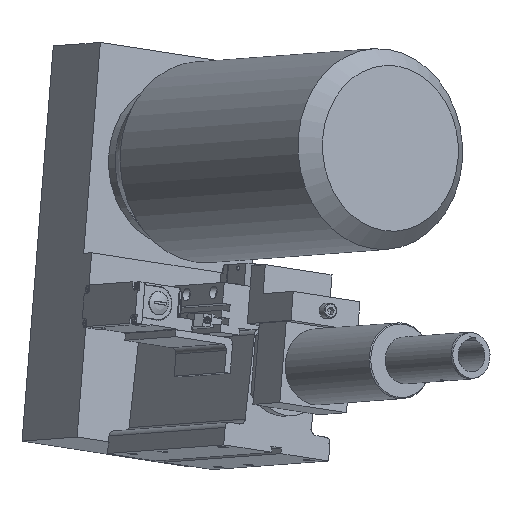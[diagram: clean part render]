
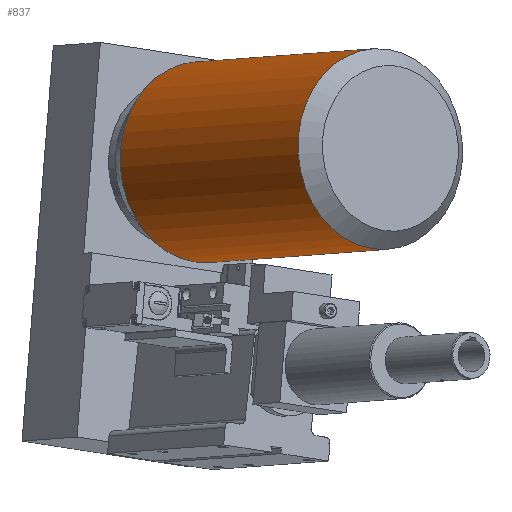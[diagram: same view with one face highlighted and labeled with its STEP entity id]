
A CAD part, front view. The second image highlights one B-rep face of the part: STEP entity #837.
In plain terms, the highlighted cylindrical face has radius 86 mm (diameter 172 mm), a full revolution.
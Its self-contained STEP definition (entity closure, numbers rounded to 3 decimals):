
#810=CARTESIAN_POINT('',(62.961,-47.484,297.076));
#811=DIRECTION('',(-0.574,0.818,-0.042));
#812=DIRECTION('',(-0.815,-0.566,0.125));
#813=AXIS2_PLACEMENT_3D('',#810,#811,#812);
#814=CYLINDRICAL_SURFACE('',#813,86.);
#815=CARTESIAN_POINT('',(-83.209,12.183,302.239));
#816=VERTEX_POINT('',#815);
#817=CARTESIAN_POINT('',(-13.127,60.846,291.448));
#818=DIRECTION('',(-0.574,0.818,-0.042));
#819=DIRECTION('',(-0.815,-0.566,0.125));
#820=AXIS2_PLACEMENT_3D('',#817,#818,#819);
#821=CIRCLE('',#820,86.);
#822=EDGE_CURVE('',#816,#816,#821,.T.);
#823=ORIENTED_EDGE('',*,*,#822,.F.);
#824=EDGE_LOOP('',(#823));
#825=FACE_OUTER_BOUND('',#824,.T.);
#826=CARTESIAN_POINT('',(68.967,-204.476,313.494));
#827=VERTEX_POINT('',#826);
#828=CARTESIAN_POINT('',(139.049,-155.813,302.703));
#829=DIRECTION('',(-0.574,0.818,-0.042));
#830=DIRECTION('',(-0.815,-0.566,0.125));
#831=AXIS2_PLACEMENT_3D('',#828,#829,#830);
#832=CIRCLE('',#831,86.);
#833=EDGE_CURVE('',#827,#827,#832,.T.);
#834=ORIENTED_EDGE('',*,*,#833,.T.);
#835=EDGE_LOOP('',(#834));
#836=FACE_BOUND('',#835,.T.);
#837=ADVANCED_FACE('',(#825,#836),#814,.T.);
